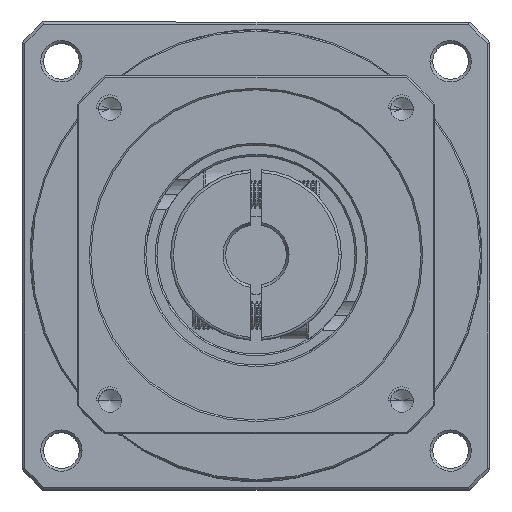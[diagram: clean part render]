
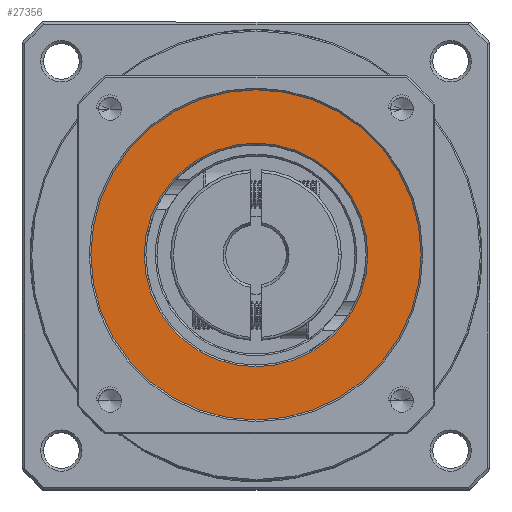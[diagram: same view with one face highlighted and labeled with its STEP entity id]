
A CAD part, top view. The second image highlights one B-rep face of the part: STEP entity #27356.
In plain terms, the highlighted planar face has unit normal (0, 0, 1).
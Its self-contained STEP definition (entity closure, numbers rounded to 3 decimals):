
#1333 = AXIS2_PLACEMENT_3D ( 'NONE', #95445, #33932, #85351 ) ;
#3052 = ORIENTED_EDGE ( 'NONE', *, *, #50413, .T. ) ;
#3102 = EDGE_LOOP ( 'NONE', ( #3052, #91350 ) ) ;
#4217 = CARTESIAN_POINT ( 'NONE',  ( -77.324, 64.145, 1.801 ) ) ;
#10911 = CARTESIAN_POINT ( 'NONE',  ( -107.324, 64.145, 1.801 ) ) ;
#17644 = PLANE ( 'NONE',  #60527 ) ;
#18155 = ORIENTED_EDGE ( 'NONE', *, *, #110979, .T. ) ;
#18516 = DIRECTION ( 'NONE',  ( 1., 0., 0. ) ) ;
#27356 = ADVANCED_FACE ( 'NONE', ( #56352, #61040 ), #17644, .T. ) ;
#27840 = CARTESIAN_POINT ( 'NONE',  ( -57.024, 64.145, 1.801 ) ) ;
#29124 = VERTEX_POINT ( 'NONE', #103629 ) ;
#32298 = DIRECTION ( 'NONE',  ( 1., 0., 0. ) ) ;
#33130 = DIRECTION ( 'NONE',  ( 0., 0., -1. ) ) ;
#33932 = DIRECTION ( 'NONE',  ( 0., 0., -1. ) ) ;
#35153 = VERTEX_POINT ( 'NONE', #120281 ) ;
#35163 = VERTEX_POINT ( 'NONE', #10911 ) ;
#36676 = CIRCLE ( 'NONE', #102564, 30. ) ;
#42081 = AXIS2_PLACEMENT_3D ( 'NONE', #74414, #33130, #103471 ) ;
#50413 = EDGE_CURVE ( 'NONE', #29124, #35163, #89034, .T. ) ;
#56352 = FACE_BOUND ( 'NONE', #62043, .T. ) ;
#56673 = CIRCLE ( 'NONE', #42081, 20.3 ) ;
#58898 = CARTESIAN_POINT ( 'NONE',  ( -77.324, 64.145, 1.801 ) ) ;
#60527 = AXIS2_PLACEMENT_3D ( 'NONE', #58898, #78745, #18516 ) ;
#61040 = FACE_OUTER_BOUND ( 'NONE', #3102, .T. ) ;
#61750 = ORIENTED_EDGE ( 'NONE', *, *, #102075, .T. ) ;
#62043 = EDGE_LOOP ( 'NONE', ( #61750, #18155 ) ) ;
#65235 = DIRECTION ( 'NONE',  ( 1., 0., 0. ) ) ;
#72407 = AXIS2_PLACEMENT_3D ( 'NONE', #4217, #104858, #65235 ) ;
#74414 = CARTESIAN_POINT ( 'NONE',  ( -77.324, 64.145, 1.801 ) ) ;
#78745 = DIRECTION ( 'NONE',  ( 0., 0., 1. ) ) ;
#82401 = CARTESIAN_POINT ( 'NONE',  ( -77.324, 64.145, 1.801 ) ) ;
#85351 = DIRECTION ( 'NONE',  ( 1., 0., 0. ) ) ;
#87601 = VERTEX_POINT ( 'NONE', #27840 ) ;
#89034 = CIRCLE ( 'NONE', #72407, 30. ) ;
#91350 = ORIENTED_EDGE ( 'NONE', *, *, #125586, .T. ) ;
#92537 = DIRECTION ( 'NONE',  ( 0., 0., 1. ) ) ;
#94312 = CIRCLE ( 'NONE', #1333, 20.3 ) ;
#95445 = CARTESIAN_POINT ( 'NONE',  ( -77.324, 64.145, 1.801 ) ) ;
#102075 = EDGE_CURVE ( 'NONE', #87601, #35153, #56673, .T. ) ;
#102564 = AXIS2_PLACEMENT_3D ( 'NONE', #82401, #92537, #32298 ) ;
#103471 = DIRECTION ( 'NONE',  ( 1., 0., 0. ) ) ;
#103629 = CARTESIAN_POINT ( 'NONE',  ( -47.324, 64.145, 1.801 ) ) ;
#104858 = DIRECTION ( 'NONE',  ( 0., 0., 1. ) ) ;
#110979 = EDGE_CURVE ( 'NONE', #35153, #87601, #94312, .T. ) ;
#120281 = CARTESIAN_POINT ( 'NONE',  ( -97.624, 64.145, 1.801 ) ) ;
#125586 = EDGE_CURVE ( 'NONE', #35163, #29124, #36676, .T. ) ;
